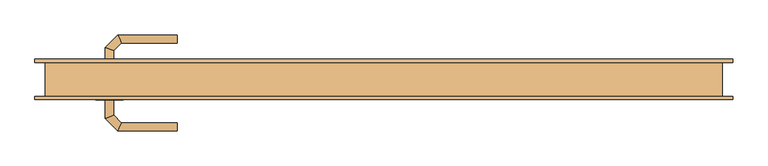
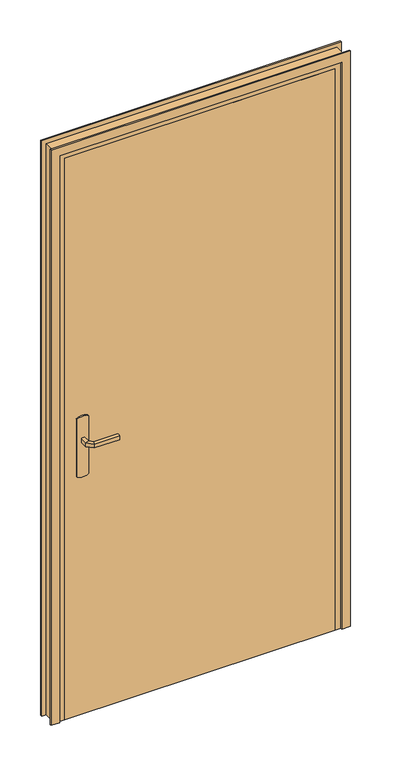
"""IFC4 building model written with IfcOpenShell, lengths in millimetres: door geometry, @_Int. Simple : @_PP (0.93m x 2.04m)."""

from ifc_helpers import new_model, si_unit, point, frame, frame_2d, origin, origin_with_axes, place, context, project, spatial, polyline, circle_curve, ellipse_curve, trimmed, segment, composite_curve, outline, extrude, faceted_brep, source, transform, mapped, element, save
from ifc_brep_helpers import plane_surface, cylinder_surface, advanced_brep


def door_bfc2bf88(model_context):
    return source(origin(), model_context, "Body", "SolidModel", [
        extrude(outline(composite_curve([segment(trimmed(circle_curve(frame_2d((904.6410162, -440.0)), 40.0), [point((870.0, -460.0))], [point((870.0, -420.0))], False, "CARTESIAN"), True, "CONTINUOUS"), segment(polyline([(870.0, -420.0), (1080.0, -420.0)]), True, "CONTINUOUS"), segment(trimmed(circle_curve(frame_2d((1045.3589838, -440.0)), 40.0), [point((1080.0, -420.0))], [point((1080.0, -460.0))], False, "CARTESIAN"), True, "CONTINUOUS"), segment(polyline([(1080.0, -460.0), (870.0, -460.0)]), True, "CONTINUOUS")], self_intersect=False)), frame((0.0, -30.0, 0.0), z_axis=(0.0, 1.0, 0.0), x_axis=(0.0, 0.0, 1.0)), (0.0, 0.0, 1.0), 5.0),
        extrude(outline(composite_curve([segment(trimmed(circle_curve(frame_2d((1045.3589838, -440.0)), 40.0), [point((1080.0, -420.0))], [point((1080.0, -460.0))], False, "CARTESIAN"), True, "CONTINUOUS"), segment(polyline([(1080.0, -460.0), (870.0, -460.0)]), True, "CONTINUOUS"), segment(trimmed(circle_curve(frame_2d((904.6410162, -440.0)), 40.0), [point((870.0, -460.0))], [point((870.0, -420.0))], False, "CARTESIAN"), True, "CONTINUOUS"), segment(polyline([(870.0, -420.0), (1080.0, -420.0)]), True, "CONTINUOUS")], self_intersect=False)), frame((0.0, 15.0, 0.0), z_axis=(0.0, 1.0, 0.0), x_axis=(0.0, 0.0, 1.0)), (0.0, 0.0, 1.0), 5.0),
        advanced_brep(
        [(-446.0, -30.0, 1007.0), (-434.0, -30.0, 1007.0), (-434.0, -30.0, 993.0), (-446.0, -30.0, 993.0), (-446.0, -57.6509507, 1007.0), (-434.0, -52.680388, 1007.0), (-434.0, -52.680388, 993.0), (-446.0, -57.6509507, 993.0), (-427.62279, -76.0281607, 1007.0), (-422.6522273, -64.0281607, 1007.0), (-422.6522273, -64.0281607, 993.0), (-427.62279, -76.0281607, 993.0), (-339.9813594, -76.0281607, 1007.0), (-339.9813594, -76.0281607, 993.0), (-339.9813594, -64.0281607, 993.0), (-339.9813594, -64.0281607, 1007.0)],
        [
            (0, 1, circle_curve(frame((-440.0, -30.0, 986.9542278), z_axis=(0.0, 1.0, 0.0), x_axis=(1.0, 0.0, 0.0)), 20.9244589)),
            (1, 2),
            (2, 3, circle_curve(frame((-440.0, -30.0, 1013.0457722), z_axis=(0.0, 1.0, 0.0), x_axis=(1.0, 0.0, 0.0)), 20.9244589)),
            (3, 0),
            (0, 4),
            (4, 5, ellipse_curve(frame((-440.0, -55.1656693, 986.9542278), z_axis=(-0.3826834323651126, 0.9238795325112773, 0.0), x_axis=(0.9238795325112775, 0.38268343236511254, 0.0)), 22.6484711, 20.9244589)),
            (5, 1),
            (5, 6),
            (6, 2),
            (6, 7, ellipse_curve(frame((-440.0, -55.1656693, 1013.0457722), z_axis=(-0.3826834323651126, 0.9238795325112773, 0.0), x_axis=(0.9238795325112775, 0.38268343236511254, 0.0)), 22.6484711, 20.9244589)),
            (7, 3),
            (7, 4),
            (4, 8),
            (8, 9, ellipse_curve(frame((-425.1375086, -70.0281607, 986.9542278), z_axis=(-0.9238795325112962, 0.38268343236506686, 0.0), x_axis=(0.3826834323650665, 0.9238795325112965, 0.0)), 22.6484711, 20.9244589)),
            (9, 5),
            (9, 10),
            (10, 6),
            (10, 11, ellipse_curve(frame((-425.1375086, -70.0281607, 1013.0457722), z_axis=(-0.9238795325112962, 0.38268343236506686, 0.0), x_axis=(0.3826834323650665, 0.9238795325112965, 0.0)), 22.6484711, 20.9244589)),
            (11, 7),
            (11, 8),
            (12, 13),
            (13, 14, circle_curve(frame((-339.9813594, -70.0281607, 1013.0457722), z_axis=(1.0, 0.0, 0.0), x_axis=(0.0, 1.0, 0.0)), 20.9244589)),
            (14, 15),
            (15, 12, circle_curve(frame((-339.9813594, -70.0281607, 986.9542278), z_axis=(1.0, 0.0, 0.0), x_axis=(0.0, 1.0, 0.0)), 20.9244589)),
            (8, 12),
            (15, 9),
            (14, 10),
            (13, 11),
        ],
        [
            plane_surface(frame((-449.2195445, -30.0, 1000.0), z_axis=(0.0, 1.0, 0.0), x_axis=(0.0, 0.0, -1.0))),
            cylinder_surface(frame((-440.0, -30.0, 986.9542278), z_axis=(0.0, 1.0, 0.0), x_axis=(1.0, 0.0, 0.0)), 20.9244589),
            plane_surface(frame((-434.0, -30.0, 1007.0), z_axis=(1.0, 0.0, 0.0), x_axis=(0.0, -1.0, 0.0))),
            cylinder_surface(frame((-440.0, -30.0, 1013.0457722), z_axis=(0.0, 1.0, 0.0), x_axis=(1.0, 0.0, 0.0)), 20.9244589),
            plane_surface(frame((-446.0, -30.0, 993.0), z_axis=(-1.0, 0.0, 0.0), x_axis=(0.0, -1.0, 0.0))),
            cylinder_surface(frame((-440.0, -55.1656693, 986.9542278), z_axis=(-0.7071067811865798, 0.7071067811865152, 0.0), x_axis=(0.7071067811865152, 0.7071067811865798, 0.0)), 20.9244589),
            plane_surface(frame((-434.0, -52.680388, 1007.0), z_axis=(0.7071067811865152, 0.7071067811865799, 0.0), x_axis=(0.7071067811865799, -0.7071067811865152, 0.0))),
            cylinder_surface(frame((-440.0, -55.1656693, 1013.0457722), z_axis=(-0.7071067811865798, 0.7071067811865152, 0.0), x_axis=(0.7071067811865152, 0.7071067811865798, 0.0)), 20.9244589),
            plane_surface(frame((-446.0, -57.6509507, 993.0), z_axis=(-0.7071067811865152, -0.7071067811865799, 0.0), x_axis=(0.7071067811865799, -0.7071067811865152, 0.0))),
            plane_surface(frame((-339.9813594, -70.0281607, 990.7804555), z_axis=(1.0, 0.0, 0.0), x_axis=(0.0, 1.0, 0.0))),
            cylinder_surface(frame((-425.1375086, -70.0281607, 986.9542278), z_axis=(-1.0, 0.0, 0.0), x_axis=(0.0, 1.0, 0.0)), 20.9244589),
            plane_surface(frame((-422.6522273, -64.0281607, 1007.0), z_axis=(0.0, 1.0, 0.0), x_axis=(1.0, 0.0, 0.0))),
            cylinder_surface(frame((-425.1375086, -70.0281607, 1013.0457722), z_axis=(-1.0, 0.0, 0.0), x_axis=(0.0, 1.0, 0.0)), 20.9244589),
            plane_surface(frame((-427.62279, -76.0281607, 993.0), z_axis=(0.0, -1.0, 0.0), x_axis=(1.0, 0.0, 0.0))),
        ],
        [
            (0, [[1, 2, 3, 4]]),
            (1, [[-1, 5, 6, 7]]),
            (2, [[-2, -7, 8, 9]]),
            (3, [[-3, -9, 10, 11]]),
            (4, [[-4, -11, 12, -5]]),
            (5, [[-6, 13, 14, 15]]),
            (6, [[-8, -15, 16, 17]]),
            (7, [[-10, -17, 18, 19]]),
            (8, [[-12, -19, 20, -13]]),
            (9, [[21, 22, 23, 24]]),
            (10, [[-14, 25, -24, 26]]),
            (11, [[-16, -26, -23, 27]]),
            (12, [[-18, -27, -22, 28]]),
            (13, [[-20, -28, -21, -25]]),
        ],
    ),
        advanced_brep(
        [(-434.0, 20.0, 993.0), (-434.0, 20.0, 1007.0), (-446.0, 20.0, 1007.0), (-446.0, 20.0, 993.0), (-434.0, 42.4852045, 993.0), (-434.0, 42.4852045, 1007.0), (-446.0, 47.4557673, 1007.0), (-446.0, 47.4557673, 993.0), (-422.5147186, 53.9704859, 993.0), (-422.5147186, 53.9704859, 1007.0), (-427.4852814, 65.9704859, 1007.0), (-427.4852814, 65.9704859, 993.0), (-339.9542163, 53.9704859, 993.0), (-339.9542163, 65.9704859, 993.0), (-339.9542163, 65.9704859, 1007.0), (-339.9542163, 53.9704859, 1007.0)],
        [
            (0, 1),
            (1, 2, circle_curve(frame((-440.0, 20.0, 986.9542278), z_axis=(0.0, -1.0, 0.0), x_axis=(-1.0, 0.0, 0.0)), 20.9244589)),
            (2, 3),
            (3, 0, circle_curve(frame((-440.0, 20.0, 1013.0457722), z_axis=(0.0, -1.0, 0.0), x_axis=(-1.0, 0.0, 0.0)), 20.9244589)),
            (0, 4),
            (4, 5),
            (5, 1),
            (5, 6, ellipse_curve(frame((-440.0, 44.9704859, 986.9542278), z_axis=(-0.3826834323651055, -0.9238795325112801, 0.0), x_axis=(0.9238795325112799, -0.3826834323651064, 0.0)), 22.6484711, 20.9244589)),
            (6, 2),
            (6, 7),
            (7, 3),
            (7, 4, ellipse_curve(frame((-440.0, 44.9704859, 1013.0457722), z_axis=(-0.3826834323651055, -0.9238795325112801, 0.0), x_axis=(0.9238795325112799, -0.3826834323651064, 0.0)), 22.6484711, 20.9244589)),
            (4, 8),
            (8, 9),
            (9, 5),
            (9, 10, ellipse_curve(frame((-425.0, 59.9704859, 986.9542278), z_axis=(-0.9238795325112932, -0.382683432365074, 0.0), x_axis=(0.3826834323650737, -0.9238795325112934, 0.0)), 22.6484711, 20.9244589)),
            (10, 6),
            (10, 11),
            (11, 7),
            (11, 8, ellipse_curve(frame((-425.0, 59.9704859, 1013.0457722), z_axis=(-0.9238795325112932, -0.382683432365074, 0.0), x_axis=(0.3826834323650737, -0.9238795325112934, 0.0)), 22.6484711, 20.9244589)),
            (12, 13, circle_curve(frame((-339.9542163, 59.9704859, 1013.0457722), z_axis=(1.0, 0.0, 0.0), x_axis=(0.0, 1.0, 0.0)), 20.9244589)),
            (13, 14),
            (14, 15, circle_curve(frame((-339.9542163, 59.9704859, 986.9542278), z_axis=(1.0, 0.0, 0.0), x_axis=(0.0, 1.0, 0.0)), 20.9244589)),
            (15, 12),
            (8, 12),
            (15, 9),
            (14, 10),
            (13, 11),
        ],
        [
            plane_surface(frame((-449.2195445, 20.0, 1000.0), z_axis=(0.0, -1.0, 0.0), x_axis=(0.0, 0.0, 1.0))),
            plane_surface(frame((-434.0, 20.0, 993.0), z_axis=(1.0, 0.0, 0.0), x_axis=(0.0, 1.0, 0.0))),
            cylinder_surface(frame((-440.0, 20.0, 986.9542278), z_axis=(0.0, -1.0, 0.0), x_axis=(-1.0, 0.0, 0.0)), 20.9244589),
            plane_surface(frame((-446.0, 20.0, 1007.0), z_axis=(-1.0, 0.0, 0.0), x_axis=(0.0, 1.0, 0.0))),
            cylinder_surface(frame((-440.0, 20.0, 1013.0457722), z_axis=(0.0, -1.0, 0.0), x_axis=(-1.0, 0.0, 0.0)), 20.9244589),
            plane_surface(frame((-434.0, 42.4852045, 993.0), z_axis=(0.7071067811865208, -0.7071067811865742, 0.0), x_axis=(0.7071067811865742, 0.7071067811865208, 0.0))),
            cylinder_surface(frame((-440.0, 44.9704859, 986.9542278), z_axis=(-0.7071067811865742, -0.7071067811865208, 0.0), x_axis=(-0.7071067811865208, 0.7071067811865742, 0.0)), 20.9244589),
            plane_surface(frame((-446.0, 47.4557673, 1007.0), z_axis=(-0.7071067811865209, 0.7071067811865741, 0.0), x_axis=(0.7071067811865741, 0.7071067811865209, 0.0))),
            cylinder_surface(frame((-440.0, 44.9704859, 1013.0457722), z_axis=(-0.7071067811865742, -0.7071067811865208, 0.0), x_axis=(-0.7071067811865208, 0.7071067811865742, 0.0)), 20.9244589),
            plane_surface(frame((-339.9542163, 59.9704859, 990.7804555), z_axis=(1.0, 0.0, 0.0), x_axis=(0.0, 1.0, 0.0))),
            plane_surface(frame((-422.5147186, 53.9704859, 993.0), z_axis=(0.0, -1.0, 0.0), x_axis=(1.0, 0.0, 0.0))),
            cylinder_surface(frame((-425.0, 59.9704859, 986.9542278), z_axis=(-1.0, 0.0, 0.0), x_axis=(0.0, 1.0, 0.0)), 20.9244589),
            plane_surface(frame((-427.4852814, 65.9704859, 1007.0), z_axis=(0.0, 1.0, 0.0), x_axis=(1.0, 0.0, 0.0))),
            cylinder_surface(frame((-425.0, 59.9704859, 1013.0457722), z_axis=(-1.0, 0.0, 0.0), x_axis=(0.0, 1.0, 0.0)), 20.9244589),
        ],
        [
            (0, [[1, 2, 3, 4]]),
            (1, [[-1, 5, 6, 7]]),
            (2, [[-2, -7, 8, 9]]),
            (3, [[-3, -9, 10, 11]]),
            (4, [[-4, -11, 12, -5]]),
            (5, [[-6, 13, 14, 15]]),
            (6, [[-8, -15, 16, 17]]),
            (7, [[-10, -17, 18, 19]]),
            (8, [[-12, -19, 20, -13]]),
            (9, [[21, 22, 23, 24]]),
            (10, [[-14, 25, -24, 26]]),
            (11, [[-16, -26, -23, 27]]),
            (12, [[-18, -27, -22, 28]]),
            (13, [[-20, -28, -21, -25]]),
        ],
    ),
        extrude(outline(polyline([(-500.0, 15.0), (430.0, 15.0), (430.0, -25.0), (-500.0, -25.0), (-500.0, 15.0)])), origin_with_axes(), (0.0, 0.0, 1.0), 2040.0),
        faceted_brep([(-535.0, -25.0, 0.0), (-535.0, 25.0, 0.0), (-485.0, 25.0, 0.0), (-485.0, 15.0, 0.0), (-500.0, 15.0, 0.0), (-500.0, -25.0, 0.0), (-535.0, -25.0, 2075.0), (-535.0, 25.0, 2075.0), (465.0, 25.0, 2075.0), (465.0, 25.0, 0.0), (415.0, 25.0, 0.0), (415.0, 25.0, 2025.0), (-485.0, 25.0, 2025.0), (-485.0, 15.0, 2025.0), (415.0, 15.0, 2025.0), (415.0, 15.0, 0.0), (430.0, 15.0, 0.0), (430.0, 15.0, 2040.0), (-500.0, 15.0, 2040.0), (-500.0, -25.0, 2040.0), (430.0, -25.0, 2040.0), (430.0, -25.0, 0.0), (465.0, -25.0, 0.0), (465.0, -25.0, 2075.0)], [[[0, 1, 2, 3, 4, 5]], [[1, 0, 6, 7]], [[2, 1, 7, 8, 9, 10, 11, 12]], [[3, 2, 12, 13]], [[4, 3, 13, 14, 15, 16, 17, 18]], [[5, 4, 18, 19]], [[0, 5, 19, 20, 21, 22, 23, 6]], [[8, 23, 22, 9]], [[22, 21, 16, 15, 10, 9]], [[14, 11, 10, 15]], [[20, 17, 16, 21]], [[7, 6, 23, 8]], [[13, 12, 11, 14]], [[19, 18, 17, 20]]]),
        extrude(outline(polyline([(0.0, -550.0), (0.0, -520.0), (2060.0, -520.0), (2060.0, 450.0), (0.0, 450.0), (0.0, 480.0), (2090.0, 480.0), (2090.0, -550.0), (0.0, -550.0)])), frame((0.0, -30.0, 0.0), z_axis=(0.0, 1.0, 0.0), x_axis=(0.0, 0.0, 1.0)), (0.0, 0.0, 1.0), 5.0),
        extrude(outline(polyline([(0.0, -550.0), (0.0, -520.0), (2060.0, -520.0), (2060.0, 450.0), (0.0, 450.0), (0.0, 480.0), (2090.0, 480.0), (2090.0, -550.0), (0.0, -550.0)])), frame((0.0, 25.0, 0.0), z_axis=(0.0, 1.0, 0.0), x_axis=(0.0, 0.0, 1.0)), (0.0, 0.0, 1.0), 5.0),
    ])


if __name__ == "__main__":
    model = new_model("IFC4")
    model_context = context("Model", 3, world=origin())
    ifc_project = project(units=[si_unit("LENGTHUNIT", "METRE", prefix="MILLI")], contexts=[model_context])
    site = spatial("IfcSite", under=ifc_project)
    building = spatial("IfcBuilding", under=site)
    placement = place(None, origin())
    door_shape = door_bfc2bf88(model_context)
    element("IfcDoor", 1, ObjectType="@_Int. Simple : @_PP (0.93m x 2.04m)", at=placement, inside=building, context=model_context, shape_type="MappedRepresentation", body=[
        mapped(door_shape, transform((0.0, 0.0, 0.0), x_axis=(1.0, 0.0, 0.0), y_axis=(0.0, 1.0, 0.0), z_axis=(0.0, 0.0, 1.0))),
    ])
    save(model, "model.ifc")
